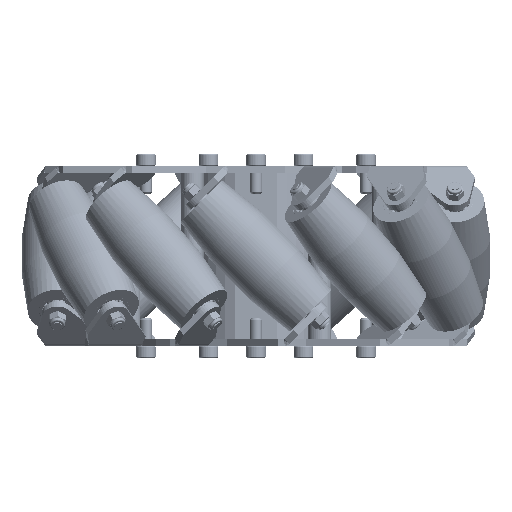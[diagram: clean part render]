
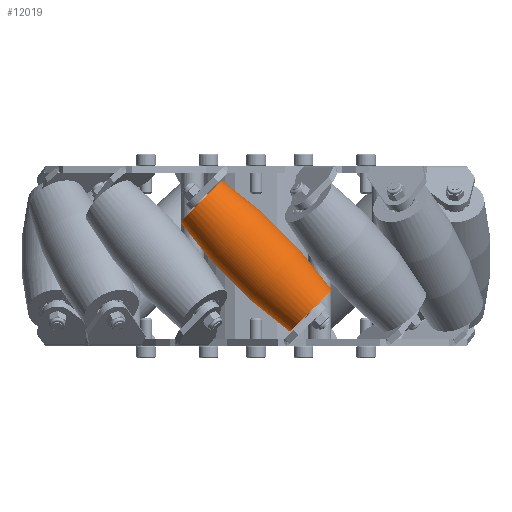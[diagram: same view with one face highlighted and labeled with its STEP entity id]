
A CAD part, front view. The second image highlights one B-rep face of the part: STEP entity #12019.
In plain terms, the highlighted toroidal (fillet/blend) face has major radius 185.94 mm and minor radius 201.54 mm.
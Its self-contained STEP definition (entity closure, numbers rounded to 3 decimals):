
#813 = CARTESIAN_POINT ( 'NONE',  ( -32.736, 86., -14.64 ) ) ;
#1239 = ORIENTED_EDGE ( 'NONE', *, *, #6574, .T. ) ;
#1311 = VERTEX_POINT ( 'NONE', #8465 ) ;
#1351 = FACE_OUTER_BOUND ( 'NONE', #4156, .T. ) ;
#1385 = DIRECTION ( 'NONE',  ( -0.707, 0., 0.707 ) ) ;
#1714 = AXIS2_PLACEMENT_3D ( 'NONE', #2327, #15015, #2160 ) ;
#2032 = VERTEX_POINT ( 'NONE', #11749 ) ;
#2160 = DIRECTION ( 'NONE',  ( 0., 0., 1. ) ) ;
#2327 = CARTESIAN_POINT ( 'NONE',  ( -131.479, 86., 131.479 ) ) ;
#2713 = DIRECTION ( 'NONE',  ( -0.707, 0., -0.707 ) ) ;
#2770 = DIRECTION ( 'NONE',  ( -0.707, 0., -0.707 ) ) ;
#2853 = ORIENTED_EDGE ( 'NONE', *, *, #13219, .F. ) ;
#4057 = CARTESIAN_POINT ( 'NONE',  ( 23.688, 86., 23.688 ) ) ;
#4156 = EDGE_LOOP ( 'NONE', ( #13003, #1239, #2853, #8905 ) ) ;
#4414 = CIRCLE ( 'NONE', #14529, 12.796 ) ;
#5063 = DIRECTION ( 'NONE',  ( -0.707, 0., -0.707 ) ) ;
#6357 = CARTESIAN_POINT ( 'NONE',  ( 131.479, 86., -131.479 ) ) ;
#6548 = CARTESIAN_POINT ( 'NONE',  ( 0., 86., 0. ) ) ;
#6574 = EDGE_CURVE ( 'NONE', #2032, #15821, #14228, .T. ) ;
#6730 = AXIS2_PLACEMENT_3D ( 'NONE', #6357, #11419, #10007 ) ;
#7234 = EDGE_CURVE ( 'NONE', #1311, #2032, #4414, .T. ) ;
#7660 = TOROIDAL_SURFACE ( 'NONE', #13767, -185.94, 201.54 ) ;
#8286 = VERTEX_POINT ( 'NONE', #813 ) ;
#8465 = CARTESIAN_POINT ( 'NONE',  ( 14.64, 86., 32.736 ) ) ;
#8905 = ORIENTED_EDGE ( 'NONE', *, *, #15281, .F. ) ;
#9280 = AXIS2_PLACEMENT_3D ( 'NONE', #14139, #2713, #15147 ) ;
#10007 = DIRECTION ( 'NONE',  ( 0., 0., -1. ) ) ;
#11419 = DIRECTION ( 'NONE',  ( 0., -1., 0. ) ) ;
#11536 = DIRECTION ( 'NONE',  ( -0.707, 0., 0.707 ) ) ;
#11749 = CARTESIAN_POINT ( 'NONE',  ( 32.736, 86., 14.64 ) ) ;
#12019 = ADVANCED_FACE ( 'NONE', ( #1351 ), #7660, .T. ) ;
#13003 = ORIENTED_EDGE ( 'NONE', *, *, #7234, .T. ) ;
#13219 = EDGE_CURVE ( 'NONE', #8286, #15821, #14312, .T. ) ;
#13767 = AXIS2_PLACEMENT_3D ( 'NONE', #6548, #2770, #11536 ) ;
#14139 = CARTESIAN_POINT ( 'NONE',  ( -23.688, 86., -23.688 ) ) ;
#14228 = CIRCLE ( 'NONE', #1714, 201.54 ) ;
#14312 = CIRCLE ( 'NONE', #9280, 12.796 ) ;
#14529 = AXIS2_PLACEMENT_3D ( 'NONE', #4057, #5063, #1385 ) ;
#15015 = DIRECTION ( 'NONE',  ( 0., 1., 0. ) ) ;
#15147 = DIRECTION ( 'NONE',  ( -0.707, 0., 0.707 ) ) ;
#15281 = EDGE_CURVE ( 'NONE', #1311, #8286, #15752, .T. ) ;
#15373 = CARTESIAN_POINT ( 'NONE',  ( -14.64, 86., -32.736 ) ) ;
#15752 = CIRCLE ( 'NONE', #6730, 201.54 ) ;
#15821 = VERTEX_POINT ( 'NONE', #15373 ) ;
